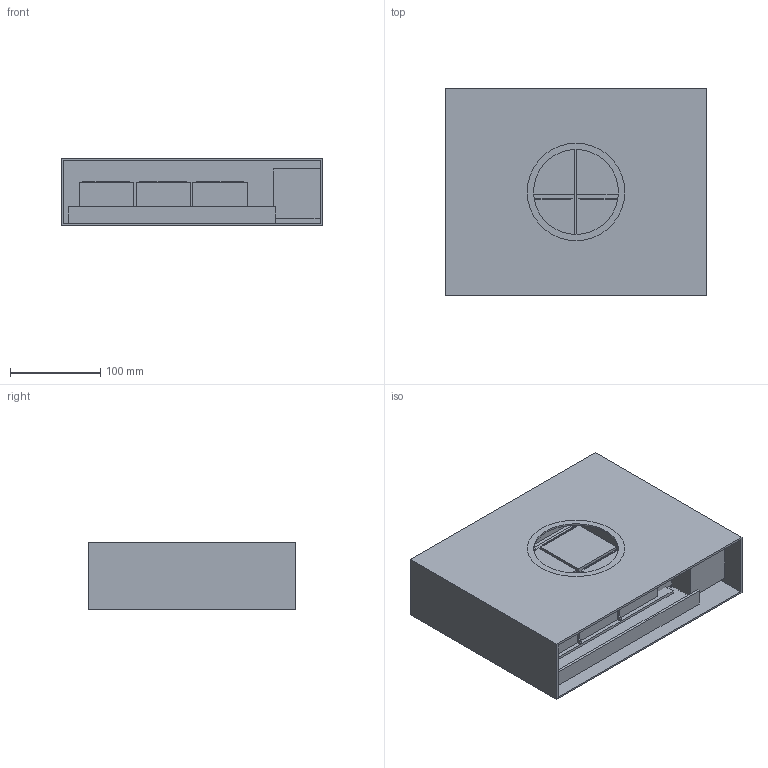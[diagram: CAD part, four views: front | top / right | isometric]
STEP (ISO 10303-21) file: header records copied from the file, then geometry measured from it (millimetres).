
FILE_DESCRIPTION(('FreeCAD Model'),'2;1');
FILE_NAME('Open CASCADE Shape Model','2026-10-01T18:12:19',('Author'),( ''),'Open CASCADE STEP processor 7.8','FreeCAD','Unknown');
FILE_SCHEMA(('AUTOMOTIVE_DESIGN { 1 0 10303 214 1 1 1 1 }'));
Length unit declared in the file: millimetre
Products named in the file (14): Jiewei_closed; outer_sleeve; wei_drawer; lock_key_left; lock_key_right; zhao_tray; inner_liner; moon_disc; sku_proxy_01; sku_proxy_02; sku_proxy_03; sku_proxy_04; sku_proxy_05; sku_proxy_06
Assembly tree (13 placements, depth 2):
  Jiewei_closed
    outer_sleeve
    wei_drawer
    lock_key_left
    lock_key_right
    zhao_tray
    inner_liner
    moon_disc
    sku_proxy_01
    sku_proxy_02
    sku_proxy_03
    sku_proxy_04
    sku_proxy_05
    sku_proxy_06
Bounding box: 290 x 230 x 75 mm (x, y, z)
Volume: 2066794.1 mm3; surface area: 668669.5 mm2
Topology: 13 solids, 13 shells, 146 faces, 357 edges, 238 vertices
Faces by surface type: plane 142, cylinder 4
Full cylindrical faces by diameter (mm): 94 x1, 108 x2
Entity records: 4437 total; most frequent: CARTESIAN_POINT 755, ORIENTED_EDGE 714, DIRECTION 685, EDGE_CURVE 357, LINE 349, VECTOR 349, VERTEX_POINT 238, AXIS2_PLACEMENT_3D 168
